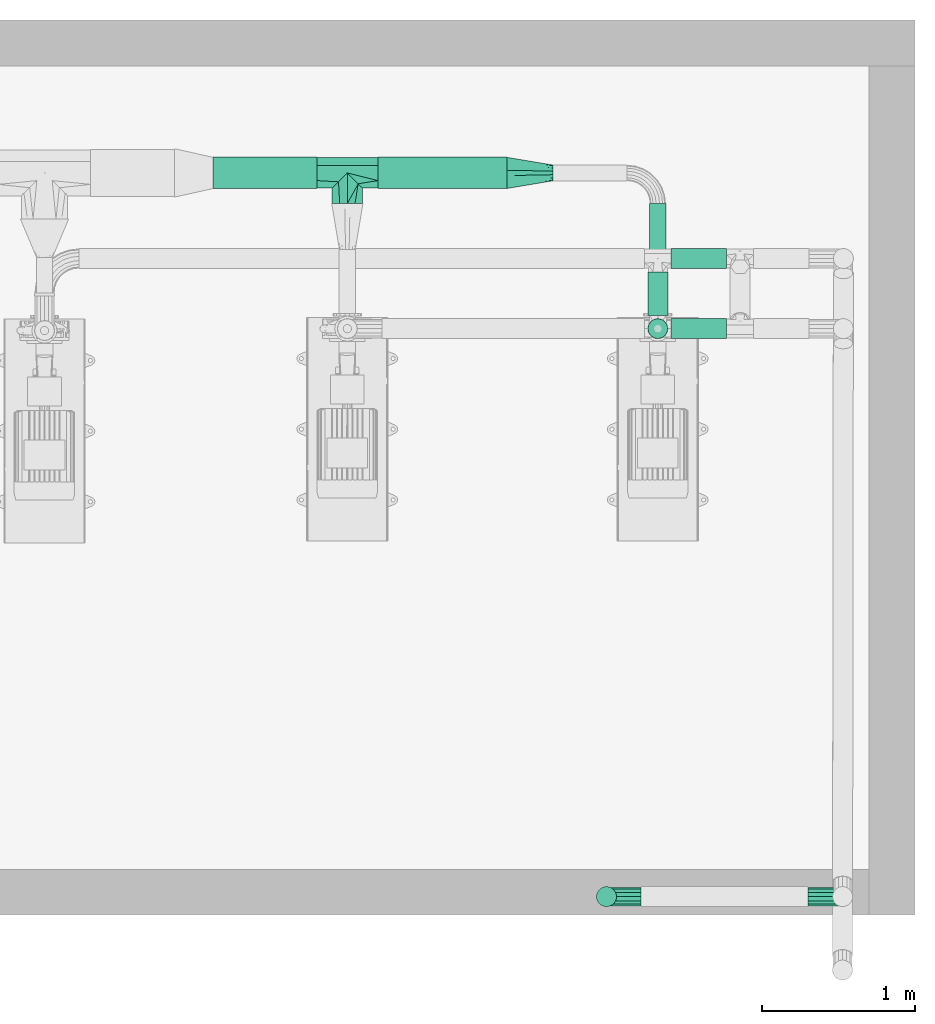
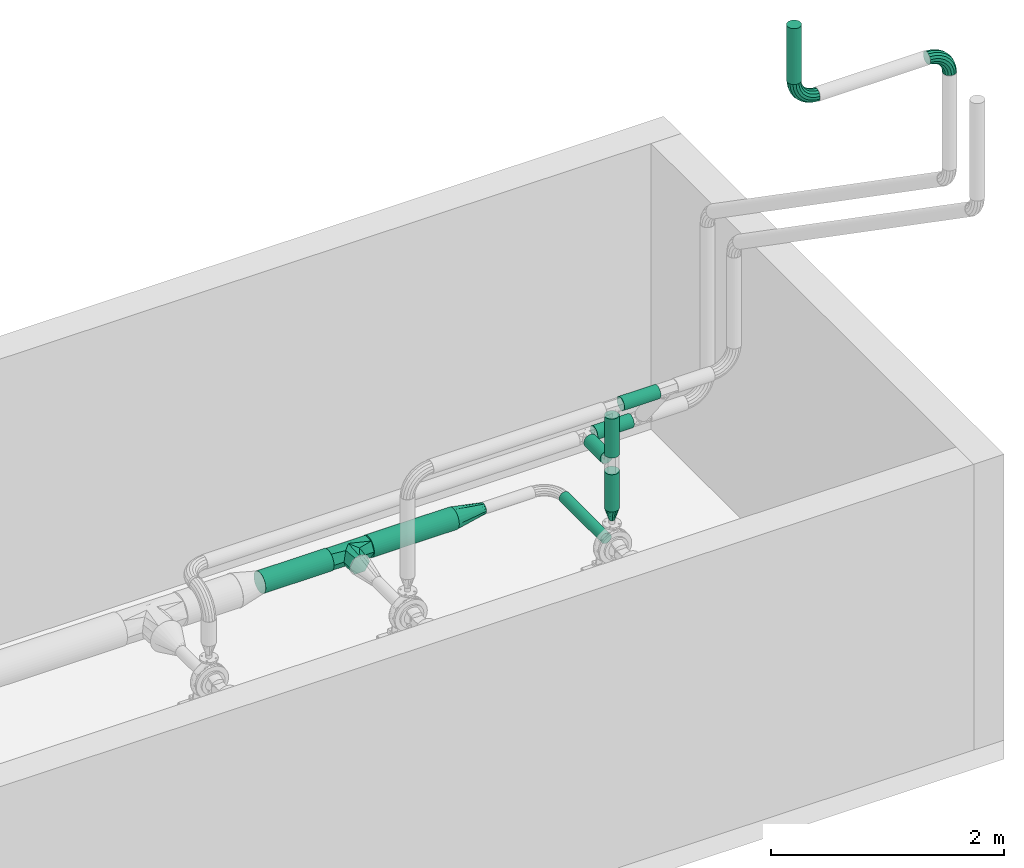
# One storey, part 6 of 12: 9 flow segments, 5 flow fittings.
"""IFC2X3 building model written with IfcOpenShell, lengths in millimetres."""

from ifc_helpers import new_model, entity, si_unit, converted_unit, direction, frame, frame_2d, origin, origin_2d_with_axis, place, context, subcontext, project, spatial, circle, extrude, faceted_brep, source, transform, mapped, material, type_object, type_shapes, element, save


model = new_model("IFC2X3")

# Units and contexts
model_context = context("Model", 3, precision=0.01, world=origin(), true_north=direction((6.123031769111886e-17, 1.0)))
body_context = subcontext(model_context, "Body", "Model", "MODEL_VIEW")
ifc_project = project(units=[si_unit("LENGTHUNIT", "METRE", prefix="MILLI"), converted_unit("PLANEANGLEUNIT", "DEGREE", entity("IfcPlaneAngleMeasure", 0.017453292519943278), si_unit("PLANEANGLEUNIT", "RADIAN"), dimensions=[0, 0, 0, 0, 0, 0, 0]), si_unit("AREAUNIT", "SQUARE_METRE")], contexts=[model_context])

# Site, building, storey
site_placement = place(None, frame((7776.576483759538, 118.3519876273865, 0.0)))
site = spatial("IfcSite", under=ifc_project, at=site_placement, Name="Default", CompositionType="ELEMENT")
building_placement = place(site_placement, origin())
building = spatial("IfcBuilding", under=site, at=building_placement, Name="Bygning (endres i Project Information)", CompositionType="ELEMENT")
storey_placement = place(building_placement, frame((0.0, 0.0, 11000.0)))
storey = spatial("IfcBuildingStorey", under=building, at=storey_placement, Name="Plan U2 - Arbeid", CompositionType="ELEMENT", Elevation=10999.999999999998)

# Flow segments
ifc_material = material(Name="SS 2343 Rustfritt stål, prosessrør, generisk")
pipe_segment_type = type_object("IfcPipeSegmentType", Name="Pipe Types:AISI 304L Rustfritt", PredefinedType="NOTDEFINED", material=ifc_material)
flow_segment_1_placement = place(storey_placement, origin())
element("IfcFlowSegment", 1, at=flow_segment_1_placement, inside=storey, type_object=pipe_segment_type, Name="Pipe Types:AISI 304L Rustfritt", ObjectType="Pipe Types:AISI 304L Rustfritt", context=body_context, shape_type="SweptSolid", body=[
    extrude(circle(Radius=53.0, at=origin_2d_with_axis()), frame((30594.001374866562, 32679.134370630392, 320.2091490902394), z_axis=(0.0, 1.0, 0.0), x_axis=(-1.0, 0.0, 0.0)), (0.0, 0.0, 1.0), 718.6672914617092),
])
flow_segment_2_placement = place(storey_placement, origin())
element("IfcFlowSegment", 2, at=flow_segment_2_placement, inside=storey, type_object=pipe_segment_type, Name="Pipe Types:AISI 304L Rustfritt", ObjectType="Pipe Types:AISI 304L Rustfritt", context=body_context, shape_type="SweptSolid", body=[
    extrude(circle(Radius=103.0, at=frame_2d((0.0, 2.1657342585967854e-12), x_axis=(1.0, 0.0))), frame((28764.001374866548, 33597.80166209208, 320.2091490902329), z_axis=(1.0, 0.0, 0.0), x_axis=(0.0, -1.0, 0.0)), (0.0, 0.0, 1.0), 843.3075225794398),
])
flow_segment_3_placement = place(storey_placement, origin())
element("IfcFlowSegment", 3, at=flow_segment_3_placement, inside=storey, type_object=pipe_segment_type, Name="Pipe Types:AISI 304L Rustfritt", ObjectType="Pipe Types:AISI 304L Rustfritt", context=body_context, shape_type="SweptSolid", body=[
    extrude(circle(Radius=65.5, at=frame_2d((0.0, 5.427151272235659e-19), x_axis=(1.0, 0.0))), frame((30258.501374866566, 28865.823731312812, 7559.500000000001), z_axis=(0.0, 2.505917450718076e-07, 1.0), x_axis=(-1.0, 0.0, 0.0)), (0.0, 0.0, 1.0), 586.7612635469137),
])
flow_segment_4_placement = place(storey_placement, origin())
element("IfcFlowSegment", 4, at=flow_segment_4_placement, inside=storey, type_object=pipe_segment_type, Name="Pipe Types:AISI 304L Rustfritt", ObjectType="Pipe Types:AISI 304L Rustfritt", context=body_context, shape_type="SweptSolid", body=[
    extrude(circle(Radius=103.0, at=origin_2d_with_axis()), frame((27685.87084779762, 33597.80239583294, 320.20930043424), z_axis=(1.0, -1.082005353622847e-06, 0.0), x_axis=(-1.082005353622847e-06, -1.0, 0.0)), (0.0, 0.0, 1.0), 678.1305270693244),
])
flow_segment_5_placement = place(storey_placement, origin())
element("IfcFlowSegment", 5, at=flow_segment_5_placement, inside=storey, type_object=pipe_segment_type, Name="Pipe Types:AISI 304L Rustfritt", ObjectType="Pipe Types:AISI 304L Rustfritt", context=body_context, shape_type="SweptSolid", body=[
    extrude(circle(Radius=65.5, at=origin_2d_with_axis()), frame((30594.011413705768, 32579.644325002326, 1268.2590944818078), z_axis=(2.791615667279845e-05, 3.742850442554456e-06, 1.0), x_axis=(-1.0, 0.0, 2.7916156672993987e-05)), (0.0, 0.0, 1.0), 408.7404593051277),
])
flow_segment_6_placement = place(storey_placement, origin())
element("IfcFlowSegment", 6, at=flow_segment_6_placement, inside=storey, type_object=pipe_segment_type, Name="Pipe Types:AISI 304L Rustfritt", ObjectType="Pipe Types:AISI 304L Rustfritt", context=body_context, shape_type="SweptSolid", body=[
    extrude(circle(Radius=65.5, at=origin_2d_with_axis()), frame((30594.008996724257, 32667.206688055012, 1180.6961148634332), z_axis=(0.0, 1.0, 0.0), x_axis=(1.0, 0.0, 0.0)), (0.0, 0.0, 1.0), 283.69460278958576),
])
flow_segment_7_placement = place(storey_placement, origin())
element("IfcFlowSegment", 7, at=flow_segment_7_placement, inside=storey, type_object=pipe_segment_type, Name="Pipe Types:AISI 304L Rustfritt", ObjectType="Pipe Types:AISI 304L Rustfritt", context=body_context, shape_type="SweptSolid", body=[
    extrude(circle(Radius=65.5, at=origin_2d_with_axis()), frame((30594.00137486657, 32579.640163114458, 702.3570165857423), z_axis=(1.331934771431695e-05, 8.195426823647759e-06, 1.0), x_axis=(-1.0, 0.0, 1.3319347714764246e-05)), (0.0, 0.0, 1.0), 390.77659836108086),
])
flow_segment_8_placement = place(storey_placement, origin())
element("IfcFlowSegment", 8, at=flow_segment_8_placement, inside=storey, type_object=pipe_segment_type, Name="Pipe Types:AISI 304L Rustfritt", ObjectType="Pipe Types:AISI 304L Rustfritt", context=body_context, shape_type="SweptSolid", body=[
    extrude(circle(Radius=65.5, at=origin_2d_with_axis()), frame((30681.588962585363, 32579.64667300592, 1764.5645713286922), z_axis=(1.0, 1.8409029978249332e-06, 0.0), x_axis=(1.8409029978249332e-06, -1.0, 0.0)), (0.0, 0.0, 1.0), 362.7601022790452),
])
flow_segment_9_placement = place(storey_placement, origin())
element("IfcFlowSegment", 9, at=flow_segment_9_placement, inside=storey, type_object=pipe_segment_type, Name="Pipe Types:AISI 304L Rustfritt", ObjectType="Pipe Types:AISI 304L Rustfritt", context=body_context, shape_type="SweptSolid", body=[
    extrude(circle(Radius=65.5, at=origin_2d_with_axis()), frame((30681.573016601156, 33038.46487677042, 1180.6961148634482), z_axis=(1.0, -1.0068134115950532e-06, 1.006813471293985e-06), x_axis=(-1.0068134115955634e-06, -1.0, 0.0)), (0.0, 0.0, 1.0), 362.7760482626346),
])

# Flow fittings
pipe_fitting_type_1 = type_object("IfcPipeFittingType", Name="Overganger, konsentriske, rustfritt EN 1,4307304L:Standard", PredefinedType="NOTDEFINED", material=ifc_material)
shared_shape_1 = source(origin(), body_context, "Body", "Brep", [
    faceted_brep([(120.95000000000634, -12.341540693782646, 62.04511492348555), (120.95000000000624, -24.68308138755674, 59.590229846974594), (120.95000000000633, -35.14573438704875, 52.59930861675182), (120.95000000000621, -45.60838738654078, 45.60838738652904), (120.95000000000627, -52.599308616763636, 35.1457343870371), (120.95000000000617, -59.5902298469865, 24.68308138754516), (120.95000000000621, -62.04511492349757, 12.341540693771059), (120.95000000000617, -64.50000000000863, 0.0), (120.95000000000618, -62.045114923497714, -12.341540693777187), (120.95000000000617, -59.5902298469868, -24.683081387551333), (120.95000000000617, -52.59930861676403, -35.1457343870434), (120.95000000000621, -45.608387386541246, -45.60838738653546), (120.95000000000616, -35.14573438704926, -52.59930861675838), (120.95000000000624, -24.68308138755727, -59.5902298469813), (120.95000000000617, -12.341540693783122, -62.04511492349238), (120.95000000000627, 0.0, -64.50000000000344), (120.95000000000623, 12.341540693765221, -62.04511492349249), (120.95000000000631, 24.6830813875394, -59.59022984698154), (120.95000000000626, 35.14573438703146, -52.599308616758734), (120.95000000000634, 45.60838738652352, -45.60838738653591), (120.95000000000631, 52.5993086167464, -35.14573438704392), (120.95000000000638, 59.59022984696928, -24.683081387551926), (120.95000000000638, 62.04511492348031, -12.341540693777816), (120.95000000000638, 64.49999999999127, 0.0), (120.95000000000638, 62.04511492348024, 12.341540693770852), (120.95000000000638, 59.59022984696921, 24.683081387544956), (120.95000000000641, 52.59930861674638, 35.145734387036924), (120.95000000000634, 45.60838738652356, 45.60838738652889), (120.95000000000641, 35.14573438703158, 52.59930861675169), (120.95000000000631, 24.68308138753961, 59.59022984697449), (120.95000000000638, 12.341540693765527, 62.0451149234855), (120.95000000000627, 0.0, 64.4999999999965), (0.0, -21.84345884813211, -15.870201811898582), (0.0, -24.421729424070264, -7.935100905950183), (0.0, -27.0, 0.0), (0.0, -24.42172942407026, 7.93510090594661), (0.0, -21.843458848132, 15.870201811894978), (0.0, -15.093458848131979, 20.774363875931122), (0.0, -8.343458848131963, 25.67852593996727), (0.0, 0.0, 25.678525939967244), (0.0, 8.343458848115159, 25.67852593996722), (0.0, 15.093458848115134, 20.77436387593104), (0.0, 21.843458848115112, 15.870201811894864), (0.0, 24.421729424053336, 7.935100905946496), (0.0, 27.0, 0.0), (0.0, 24.42172942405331, -7.935100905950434), (0.0, 21.843458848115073, -15.870201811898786), (0.0, 15.093458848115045, -20.774363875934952), (0.0, 8.343458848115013, -25.678525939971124), (0.0, 0.0, -25.67852593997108), (0.0, -8.343458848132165, -25.678525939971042), (0.0, -15.093458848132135, -20.774363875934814)], [[[0, 1, 2, 3, 4, 5, 6, 7, 8, 9, 10, 11, 12, 13, 14, 15, 16, 17, 18, 19, 20, 21, 22, 23, 24, 25, 26, 27, 28, 29, 30, 31]], [[32, 33, 34, 35, 36, 37, 38, 39, 40, 41, 42, 43, 44, 45, 46, 47, 48, 49, 50, 51]], [[8, 7, 34]], [[22, 21, 45]], [[47, 46, 19]], [[47, 19, 18, 17]], [[11, 32, 51]], [[32, 11, 10, 9]], [[17, 48, 47]], [[51, 13, 12, 11]], [[32, 9, 33]], [[14, 49, 15]], [[49, 16, 15]], [[49, 14, 50]], [[48, 16, 49]], [[48, 17, 16]], [[21, 46, 45]], [[34, 33, 8]], [[46, 21, 20, 19]], [[44, 22, 45]], [[33, 9, 8]], [[14, 13, 50]], [[22, 44, 23]], [[13, 51, 50]], [[24, 23, 44]], [[6, 5, 35]], [[37, 36, 3]], [[37, 3, 2, 1]], [[27, 42, 41]], [[42, 27, 26, 25]], [[1, 38, 37]], [[41, 29, 28, 27]], [[42, 25, 43]], [[30, 39, 31]], [[39, 0, 31]], [[39, 30, 40]], [[38, 0, 39]], [[38, 1, 0]], [[5, 36, 35]], [[44, 43, 24]], [[36, 5, 4, 3]], [[34, 6, 35]], [[43, 25, 24]], [[30, 29, 40]], [[6, 34, 7]], [[29, 41, 40]]]),
])
type_shapes(pipe_fitting_type_1, [shared_shape_1])
flow_fitting_1_placement = place(storey_placement, frame((30594.001374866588, 32579.640163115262, 581.4071167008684), z_axis=(0.0, 1.0, 0.0), x_axis=(0.0, 0.0, 1.0)))
element("IfcFlowFitting", 10, at=flow_fitting_1_placement, inside=storey, type_object=pipe_fitting_type_1, material=ifc_material, Name="Overganger, konsentriske, rustfritt EN 1,4307304L:Standard", ObjectType="Overganger, konsentriske, rustfritt EN 1,4307304L:Standard", context=body_context, shape_type="MappedRepresentation", body=[
    mapped(shared_shape_1, transform((0.0, 0.0, 0.0), scale=1.0)),
])
pipe_fitting_type_2 = type_object("IfcPipeFittingType", Name="VA_prosess_rustfritt_T_D=L:T-rør_prosess_D=L", PredefinedType="NOTDEFINED", material=ifc_material)
shared_shape_2 = source(origin(), body_context, "Body", "Brep", [
    faceted_brep([(-200.0, -100.0, 0.0), (-200.0, -87.49999999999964, 21.65063509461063), (-200.0, -75.0, 43.30127018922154), (-200.0, -50.0, 86.60254037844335), (-200.0, 0.0, 86.60254037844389), (-200.0, 50.0, 86.60254037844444), (-200.0, 75.0, 43.30127018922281), (-200.0, 100.0, 0.0), (-200.0, 79.16042262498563, -36.0952068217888), (-200.0, 50.0, -86.60254037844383), (-200.0, 0.0, -86.60254037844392), (-200.0, -50.0, -86.60254037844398), (-200.0, -75.0, -43.301270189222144), (200.0, 50.0, -86.60254037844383), (200.0, 75.0, -43.30127018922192), (200.0, 100.0, 0.0), (200.0, 75.0, 43.30127018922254), (200.0, 50.0, 86.60254037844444), (200.0, 0.0, 86.60254037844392), (200.0, -50.0, 86.60254037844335), (200.0, -75.0, 43.3012701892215), (200.0, -100.0, 0.0), (200.0, -87.50000000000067, -21.650635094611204), (200.0, -75.0, -43.30127018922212), (200.0, -50.0, -86.60254037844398), (200.0, 0.0, -86.60254037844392), (85.43158849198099, -85.43158849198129, 35.2789248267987), (70.86317698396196, -70.8631769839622, 70.55784965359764), (0.0, 0.0, 100.0), (-58.003463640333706, -58.00346364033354, 81.45918122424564), (100.0, -100.0, 0.0), (-100.0, -100.0, 0.0), (-80.86239826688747, -80.86239826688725, 37.12052237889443), (-79.00173182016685, -79.00173182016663, 40.7295906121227), (80.86239826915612, -80.86239826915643, -37.120522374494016), (-85.43158849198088, -85.43158849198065, -35.27892482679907), (0.0, 0.0, -100.0), (79.00173182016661, -79.00173182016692, -40.729590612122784), (58.003463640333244, -58.0034636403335, -81.45918122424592), (-70.86317698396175, -70.86317698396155, -70.55784965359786), (50.0, -200.0, -86.60254037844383), (79.16042328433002, -200.0, -36.09520567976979), (100.0, -200.0, 0.0), (75.0, -200.0, 43.301270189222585), (50.0, -200.0, 86.60254037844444), (0.0, -200.0, 86.60254037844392), (-50.0, -200.0, 86.60254037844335), (-79.16042252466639, -200.0, 36.09520699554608), (-100.0, -200.0, 0.0), (-75.0, -200.0, -43.30127018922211), (-50.0, -200.0, -86.60254037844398), (0.0, -200.0, -86.60254037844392)], [[[0, 1, 2, 3, 4, 5, 6, 7, 8, 9, 10, 11, 12]], [[13, 14, 15, 16, 17, 18, 19, 20, 21, 22, 23, 24, 25]], [[20, 26, 21]], [[27, 20, 19]], [[28, 19, 18, 17]], [[2, 29, 3]], [[21, 26, 30]], [[0, 31, 1]], [[20, 27, 26]], [[19, 28, 27]], [[7, 6, 5, 17, 16, 15]], [[3, 28, 5, 4]], [[3, 29, 28]], [[32, 2, 1]], [[5, 28, 17]], [[2, 32, 33, 29]], [[31, 32, 1]], [[9, 8, 7, 15, 14, 13]], [[30, 34, 22]], [[0, 35, 31]], [[9, 13, 36]], [[23, 34, 37, 38]], [[10, 9, 36, 11]], [[36, 13, 25, 24]], [[30, 22, 21]], [[34, 23, 22]], [[38, 24, 23]], [[39, 11, 36]], [[12, 35, 0]], [[12, 39, 35]], [[39, 12, 11]], [[24, 38, 36]], [[40, 41, 42, 43, 44, 45, 46, 47, 48, 49, 50, 51]], [[33, 46, 29]], [[31, 48, 47]], [[46, 33, 47]], [[47, 33, 32, 31]], [[29, 46, 45]], [[30, 43, 42]], [[45, 27, 28]], [[27, 44, 43]], [[29, 45, 28]], [[43, 30, 26, 27]], [[45, 44, 27]], [[37, 40, 38]], [[30, 42, 41]], [[40, 37, 41]], [[41, 37, 34, 30]], [[38, 40, 51]], [[31, 49, 48]], [[51, 39, 36]], [[39, 50, 49]], [[38, 51, 36]], [[49, 31, 35, 39]], [[51, 50, 39]]]),
])
type_shapes(pipe_fitting_type_2, [shared_shape_2])
flow_fitting_2_placement = place(storey_placement, frame((28564.00137486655, 33597.80166209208, 320.20914909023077), z_axis=(0.0, 0.0, -1.0), x_axis=(-1.0, 0.0, 0.0)))
element("IfcFlowFitting", 11, at=flow_fitting_2_placement, inside=storey, type_object=pipe_fitting_type_2, material=ifc_material, Name="VA_prosess_rustfritt_T_D=L:T-rør_prosess_D=L", ObjectType="VA_prosess_rustfritt_T_D=L:T-rør_prosess_D=L", context=body_context, shape_type="MappedRepresentation", body=[
    mapped(shared_shape_2, transform((0.0, 0.0, 0.0), scale=1.0)),
])
pipe_fitting_type_3 = type_object("IfcPipeFittingType", Name="VA_prosess_rustfritt_bend_D+100:VA_prosess_rustfritt_bend_D+100", PredefinedType="NOTDEFINED", material=ifc_material)
shared_shape_3 = source(origin(), body_context, "Body", "Brep", [
    faceted_brep([(-161.02523148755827, -55.291774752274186, 0.0), (-162.4025127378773, -49.25751132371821, 27.117733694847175), (-225.0, -56.310554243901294, 27.117733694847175), (-225.0, -62.50000000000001, 0.0), (-166.26156904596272, -32.34988091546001, 48.86446765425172), (-225.0, -38.968112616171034, 48.86446765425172), (-171.83806698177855, -7.917647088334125, 60.93299451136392), (-225.0, -13.907558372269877, 60.93299451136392), (-178.0275127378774, 19.20008660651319, 60.93299451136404), (-225.0, 13.90755837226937, 60.93299451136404), (-183.60401067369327, 43.632320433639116, 48.86446765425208), (-225.0, 38.96811261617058, 48.86446765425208), (-187.46306698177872, 60.53995084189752, 27.117733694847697), (-225.0, 56.31055424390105, 27.117733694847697), (-188.8403482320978, 66.57421427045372, 0.0), (-225.0, 62.50000000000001, 0.0), (-187.46306698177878, 60.53995084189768, -27.117733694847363), (-225.0, 56.31055424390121, -27.117733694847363), (-183.60401067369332, 43.63232043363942, -48.86446765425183), (-225.0, 38.96811261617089, -48.86446765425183), (-178.0275127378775, 19.20008660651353, -60.932994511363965), (-225.0, 13.90755837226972, -60.932994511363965), (-171.8380669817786, -7.917647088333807, -60.932994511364), (-225.0, -13.907558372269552, -60.932994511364), (-166.26156904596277, -32.34988091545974, -48.864467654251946), (-225.0, -38.96811261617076, -48.864467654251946), (-162.40251273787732, -49.25751132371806, -27.11773369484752), (-225.0, -56.31055424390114, -27.11773369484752), (-100.25842500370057, -34.028549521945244, 0.0), (-102.94392487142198, -28.452051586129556, 27.117733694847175), (-110.46852829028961, -12.82705158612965, 48.86446765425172), (-121.34189526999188, 9.751727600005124, 60.93299451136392), (-133.41042212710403, 34.812281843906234, 60.93299451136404), (-144.28378910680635, 57.39106103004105, 48.86446765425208), (-151.80839252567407, 73.01606103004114, 27.117733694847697), (-154.49389239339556, 78.59255896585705, 0.0), (-151.80839252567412, 73.01606103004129, -27.117733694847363), (-144.28378910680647, 57.391061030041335, -48.86446765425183), (-133.4104221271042, 34.812281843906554, -60.932994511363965), (-121.34189526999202, 9.751727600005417, -60.932994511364), (-110.46852829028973, -12.827051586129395, -48.864467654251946), (-102.94392487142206, -28.452051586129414, -27.11773369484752), (-45.74668196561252, 0.22344879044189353, 0.0), (-49.60573827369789, 5.06255234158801, 27.117733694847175), (-60.4185737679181, 18.621419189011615, 48.86446765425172), (-76.04357376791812, 38.2145494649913, 60.93299451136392), (-93.3860153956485, 59.96128342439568, 60.93299451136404), (-109.01101539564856, 79.5544137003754, 48.86446765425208), (-119.8238508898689, 93.11328054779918, 27.117733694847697), (-123.68290719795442, 97.95238409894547, 0.0), (-119.82385088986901, 93.11328054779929, -27.117733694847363), (-109.01101539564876, 79.55441370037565, -48.86446765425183), (-93.38601539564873, 59.96128342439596, -60.932994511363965), (-76.04357376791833, 38.214549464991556, -60.932994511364), (-60.418573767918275, 18.62141918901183, -48.864467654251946), (-49.60573827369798, 5.06255234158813, -27.11773369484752), (-0.22344879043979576, 45.7466819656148, 0.0), (-5.062552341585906, 49.60573827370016, 27.117733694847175), (-18.621419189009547, 60.41857376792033, 48.86446765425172), (-38.2145494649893, 76.04357376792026, 60.93299451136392), (-59.96128342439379, 93.38601539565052, 60.93299451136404), (-79.55441370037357, 109.01101539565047, 48.86446765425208), (-93.11328054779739, 119.82385088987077, 27.117733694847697), (-97.9523840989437, 123.6829071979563, 0.0), (-93.1132805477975, 119.82385088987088, -27.117733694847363), (-79.55441370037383, 109.01101539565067, -48.86446765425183), (-59.96128342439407, 93.38601539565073, -60.932994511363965), (-38.21454946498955, 76.04357376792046, -60.932994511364), (-18.621419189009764, 60.418573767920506, -48.864467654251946), (-5.062552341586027, 49.60573827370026, -27.11773369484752), (34.02854952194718, 100.25842500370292, 0.0), (28.452051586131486, 102.94392487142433, 27.117733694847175), (12.827051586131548, 110.4685282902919, 48.86446765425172), (-9.751727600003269, 121.34189526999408, 60.93299451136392), (-34.81228184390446, 133.4104221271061, 60.93299451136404), (-57.39106103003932, 144.28378910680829, 48.86446765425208), (-73.01606103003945, 151.80839252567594, 27.117733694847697), (-78.59255896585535, 154.4938923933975, 0.0), (-73.0160610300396, 151.80839252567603, -27.117733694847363), (-57.3910610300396, 144.28378910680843, -48.86446765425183), (-34.81228184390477, 133.41042212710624, -60.932994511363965), (-9.751727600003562, 121.34189526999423, -60.932994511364), (12.827051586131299, 110.46852829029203, -48.864467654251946), (28.452051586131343, 102.9439248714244, -27.11773369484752), (55.29177475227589, 161.0252314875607, 0.0), (49.257511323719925, 162.40251273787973, 27.117733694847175), (32.34988091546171, 166.2615690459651, 48.86446765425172), (7.917647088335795, 171.8380669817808, 60.93299451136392), (-19.200086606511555, 178.02751273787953, 60.93299451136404), (-43.63232043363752, 183.60401067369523, 48.86446765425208), (-60.539950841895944, 187.46306698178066, 27.117733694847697), (-66.57421427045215, 188.84034823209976, 0.0), (-60.53995084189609, 187.46306698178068, -27.117733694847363), (-43.63232043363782, 183.6040106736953, -48.86446765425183), (-19.2000866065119, 178.02751273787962, -60.932994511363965), (7.917647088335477, 171.83806698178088, -60.932994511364), (32.34988091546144, 166.26156904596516, -48.864467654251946), (49.257511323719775, 162.40251273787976, -27.11773369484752), (62.500000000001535, 225.0, 0.0), (56.31055424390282, 225.0, 27.117733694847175), (38.96811261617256, 225.0, 48.86446765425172), (13.9075583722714, 225.0, 60.93299451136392), (-13.907558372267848, 225.0, 60.93299451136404), (-38.96811261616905, 225.0, 48.86446765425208), (-56.310554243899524, 225.0, 27.117733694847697), (-62.49999999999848, 225.0, 0.0), (-56.31055424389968, 225.0, -27.117733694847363), (-38.968112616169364, 225.0, -48.86446765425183), (-13.907558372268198, 225.0, -60.932994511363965), (13.907558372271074, 225.0, -60.932994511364), (38.968112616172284, 225.0, -48.864467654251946), (56.310554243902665, 225.0, -27.11773369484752)], [[[0, 1, 2, 3]], [[1, 4, 5, 2]], [[4, 6, 7, 5]], [[6, 8, 9, 7]], [[8, 10, 11, 9]], [[10, 12, 13, 11]], [[12, 14, 15, 13]], [[14, 16, 17, 15]], [[16, 18, 19, 17]], [[18, 20, 21, 19]], [[20, 22, 23, 21]], [[22, 24, 25, 23]], [[24, 26, 27, 25]], [[26, 0, 3, 27]], [[28, 29, 1, 0]], [[29, 30, 4, 1]], [[30, 31, 6, 4]], [[31, 32, 8, 6]], [[32, 33, 10, 8]], [[33, 34, 12, 10]], [[34, 35, 14, 12]], [[35, 36, 16, 14]], [[36, 37, 18, 16]], [[37, 38, 20, 18]], [[38, 39, 22, 20]], [[39, 40, 24, 22]], [[40, 41, 26, 24]], [[41, 28, 0, 26]], [[42, 43, 29, 28]], [[43, 44, 30, 29]], [[44, 45, 31, 30]], [[45, 46, 32, 31]], [[46, 47, 33, 32]], [[47, 48, 34, 33]], [[48, 49, 35, 34]], [[49, 50, 36, 35]], [[50, 51, 37, 36]], [[51, 52, 38, 37]], [[52, 53, 39, 38]], [[53, 54, 40, 39]], [[54, 55, 41, 40]], [[55, 42, 28, 41]], [[56, 57, 43, 42]], [[57, 58, 44, 43]], [[58, 59, 45, 44]], [[59, 60, 46, 45]], [[60, 61, 47, 46]], [[61, 62, 48, 47]], [[62, 63, 49, 48]], [[63, 64, 50, 49]], [[64, 65, 51, 50]], [[65, 66, 52, 51]], [[66, 67, 53, 52]], [[67, 68, 54, 53]], [[68, 69, 55, 54]], [[69, 56, 42, 55]], [[70, 71, 57, 56]], [[71, 72, 58, 57]], [[72, 73, 59, 58]], [[73, 74, 60, 59]], [[74, 75, 61, 60]], [[75, 76, 62, 61]], [[76, 77, 63, 62]], [[77, 78, 64, 63]], [[78, 79, 65, 64]], [[79, 80, 66, 65]], [[80, 81, 67, 66]], [[81, 82, 68, 67]], [[82, 83, 69, 68]], [[83, 70, 56, 69]], [[84, 85, 71, 70]], [[85, 86, 72, 71]], [[86, 87, 73, 72]], [[87, 88, 74, 73]], [[88, 89, 75, 74]], [[89, 90, 76, 75]], [[90, 91, 77, 76]], [[91, 92, 78, 77]], [[92, 93, 79, 78]], [[93, 94, 80, 79]], [[94, 95, 81, 80]], [[95, 96, 82, 81]], [[96, 97, 83, 82]], [[97, 84, 70, 83]], [[98, 99, 85, 84]], [[99, 100, 86, 85]], [[100, 101, 87, 86]], [[101, 102, 88, 87]], [[102, 103, 89, 88]], [[103, 104, 90, 89]], [[104, 105, 91, 90]], [[105, 106, 92, 91]], [[106, 107, 93, 92]], [[107, 108, 94, 93]], [[108, 109, 95, 94]], [[109, 110, 96, 95]], [[110, 111, 97, 96]], [[111, 98, 84, 97]], [[3, 2, 5, 7, 9, 11, 13, 15, 17, 19, 21, 23, 25, 27]], [[111, 110, 109, 108, 107, 106, 105, 104, 103, 102, 101, 100, 99, 98]]]),
])
type_shapes(pipe_fitting_type_3, [shared_shape_3])
for number, where, z_axis, x_axis in (
    (12, (30258.501374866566, 28865.823731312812, 7334.5), (0.0, 1.0, 0.0), (-1.0, 0.0, 0.0)),
    (13, (31802.205667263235, 28865.824030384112, 7334.500000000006), (-1.3292057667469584e-06, 1.0, -6.767078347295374e-07), (1.0, 1.3292057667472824e-06, 0.0)),
):
    element("IfcFlowFitting", number, at=place(storey_placement, frame(where, z_axis=z_axis, x_axis=x_axis)), inside=storey, type_object=pipe_fitting_type_3, material=ifc_material, Name="VA_prosess_rustfritt_bend_D+100:VA_prosess_rustfritt_bend_D+100", ObjectType="VA_prosess_rustfritt_bend_D+100:VA_prosess_rustfritt_bend_D+100", context=body_context, shape_type="MappedRepresentation", body=[
        mapped(shared_shape_3, transform((0.0, 0.0, 0.0), scale=1.0)),
    ])
pipe_fitting_type_4 = type_object("IfcPipeFittingType", Name="Overganger, konsentriske, rustfritt EN 1,4307304L:Standard", PredefinedType="NOTDEFINED", material=ifc_material)
shared_shape_4 = source(origin(), body_context, "Body", "Brep", [
    faceted_brep([(300.0, -52.0, 0.0), (300.0, -49.425190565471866, -11.280977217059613), (300.0, -46.850381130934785, -22.561954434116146), (300.0, -39.635925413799, -31.608595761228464), (300.0, -32.421469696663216, -40.65523708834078), (300.0, -21.996279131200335, -45.67574426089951), (300.0, -11.571088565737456, -50.69625143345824), (300.0, 0.0, -50.69625143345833), (300.0, 11.571088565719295, -50.696251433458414), (300.0, 21.996279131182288, -45.67574426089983), (300.0, 32.42146969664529, -40.655237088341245), (300.0, 39.63592541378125, -31.608595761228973), (300.0, 46.85038113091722, -22.561954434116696), (300.0, 49.42519056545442, -11.280977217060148), (300.0, 52.0, 0.0), (300.0, 49.42519056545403, 11.280977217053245), (300.0, 46.85038113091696, 22.561954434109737), (300.0, 39.63592541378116, 31.60859576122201), (300.0, 32.42146969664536, 40.65523708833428), (300.0, 21.99627913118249, 45.675744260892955), (300.0, 11.571088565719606, 50.696251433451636), (300.0, 0.0, 50.69625143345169), (300.0, -11.571088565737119, 50.69625143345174), (300.0, -21.996279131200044, 45.67574426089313), (300.0, -32.421469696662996, 40.65523708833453), (300.0, -39.63592541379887, 31.60859576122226), (300.0, -46.85038113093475, 22.561954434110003), (300.0, -49.4251905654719, 11.280977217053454), (0.0, -95.84864732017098, -34.88605461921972), (0.0, -102.0, 0.0), (0.0, -95.84864732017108, 34.88605461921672), (0.0, -78.13653319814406, 65.56433618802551), (0.0, -51.0, 88.33459118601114), (0.0, -17.712114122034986, 100.45039080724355), (0.0, 17.712114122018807, 100.45039080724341), (0.0, 51.0, 88.33459118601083), (0.0, 78.13653319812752, 65.56433618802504), (0.0, 95.8486473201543, 34.88605461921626), (0.0, 102.0, 0.0), (0.0, 95.84864732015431, -34.88605461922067), (0.0, 78.13653319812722, -65.56433618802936), (0.0, 51.0, -88.33459118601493), (0.0, 17.712114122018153, -100.45039080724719), (0.0, -17.712114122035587, -100.450390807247), (0.0, -51.0, -88.33459118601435), (0.0, -78.1365331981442, -65.56433618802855)], [[[0, 1, 2, 3, 4, 5, 6, 7, 8, 9, 10, 11, 12, 13, 14, 15, 16, 17, 18, 19, 20, 21, 22, 23, 24, 25, 26, 27]], [[28, 29, 30, 31, 32, 33, 34, 35, 36, 37, 38, 39, 40, 41, 42, 43, 44, 45]], [[38, 13, 39]], [[5, 4, 44]], [[42, 9, 8]], [[11, 10, 40, 12]], [[41, 10, 9]], [[10, 41, 40]], [[5, 43, 6]], [[42, 41, 9]], [[42, 8, 7, 6, 43]], [[43, 5, 44]], [[13, 38, 14]], [[2, 45, 4, 3]], [[13, 12, 39]], [[0, 29, 1]], [[28, 2, 1]], [[12, 40, 39]], [[44, 4, 45]], [[1, 29, 28]], [[28, 45, 2]], [[29, 27, 30]], [[19, 18, 35]], [[33, 23, 22]], [[25, 24, 31, 26]], [[32, 24, 23]], [[24, 32, 31]], [[19, 34, 20]], [[33, 32, 23]], [[33, 22, 21, 20, 34]], [[34, 19, 35]], [[27, 29, 0]], [[16, 36, 18, 17]], [[27, 26, 30]], [[14, 38, 15]], [[37, 16, 15]], [[26, 31, 30]], [[35, 18, 36]], [[15, 38, 37]], [[37, 36, 16]]]),
])
type_shapes(pipe_fitting_type_4, [shared_shape_4])
flow_fitting_3_placement = place(storey_placement, frame((29607.30889744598, 33597.80166209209, 320.20914909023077)))
element("IfcFlowFitting", 14, at=flow_fitting_3_placement, inside=storey, type_object=pipe_fitting_type_4, material=ifc_material, Name="Overganger, konsentriske, rustfritt EN 1,4307304L:Standard", ObjectType="Overganger, konsentriske, rustfritt EN 1,4307304L:Standard", context=body_context, shape_type="MappedRepresentation", body=[
    mapped(shared_shape_4, transform((0.0, 0.0, 0.0), scale=1.0)),
])

save(model, "model.ifc")
